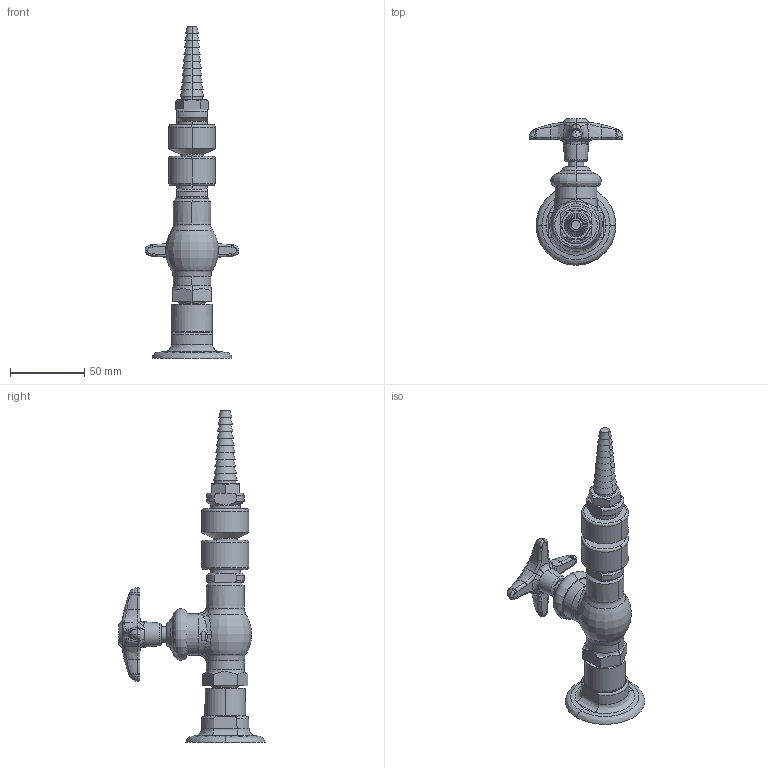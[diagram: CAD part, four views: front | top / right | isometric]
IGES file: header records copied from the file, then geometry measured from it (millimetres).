
Start section:  PTC IGES file: LWV1-A41-50.igs
Global section: file name: LWV1-A41-50.igs; native system: Creo Parametric by PTC Inc.; preprocessor: 2014500; author: usch_engrender; organization: Unknown; date: 20151111.111725; units: inch
Bounding box: 63.42 x 98.79 x 224.15 mm (x, y, z)
Volume: 150876.2 mm3; surface area: 33192.2 mm2
Topology: 1 solids, 4 shells, 424 faces, 1025 edges, 627 vertices
Faces by surface type: bspline 253, revolution 171
